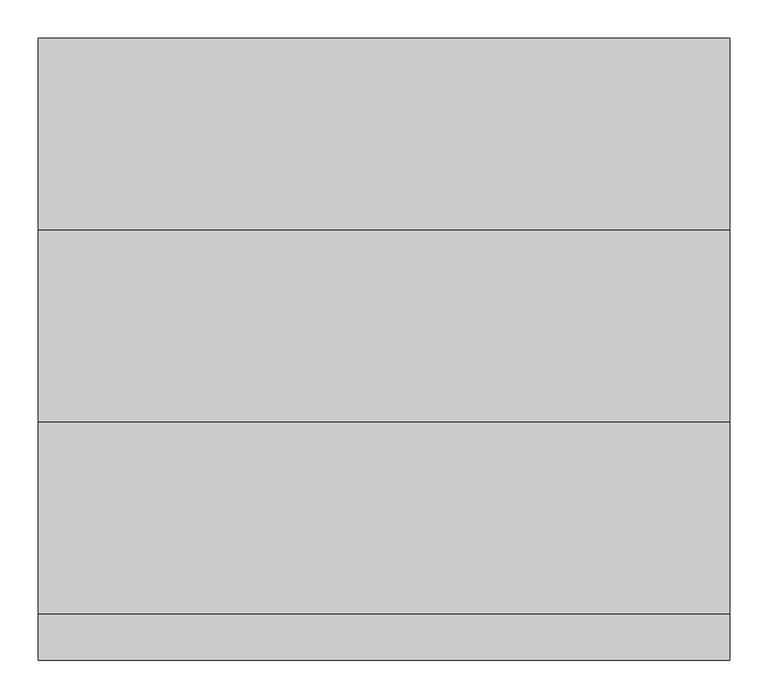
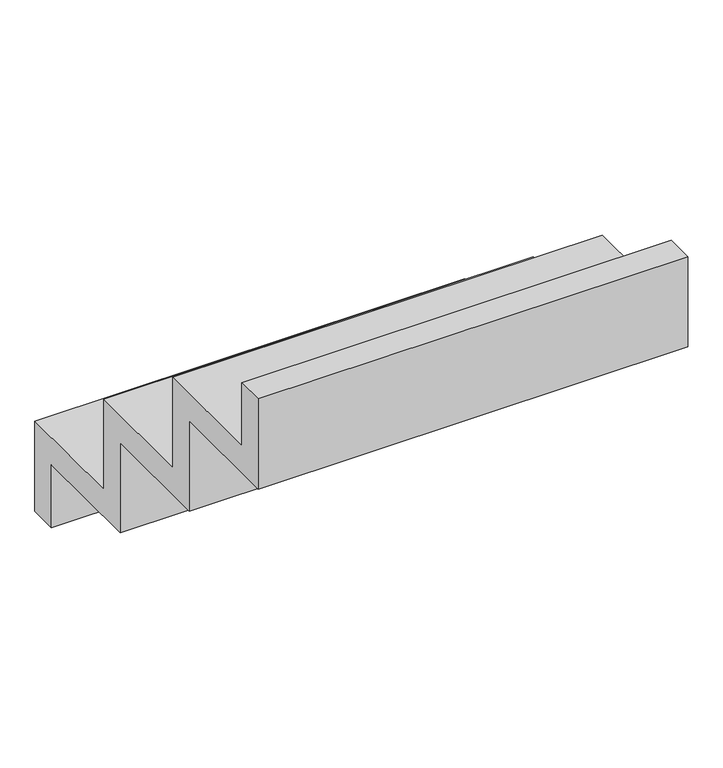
"""IFC4 building model written with IfcOpenShell, lengths in millimetres: stair geometry, Л2 : Л-1."""

from ifc_helpers import new_model, si_unit, frame, origin, place, context, project, spatial, polyline, outline, extrude, source, transform, mapped, element, save


def stair_94473a12(model_context):
    return source(origin(), model_context, "Body", "SweptSolid", [
        extrude(outline(polyline([(22210.0, 600.0), (22460.0, 600.0), (22460.0, 400.0), (22710.0, 400.0), (22710.0, 200.0), (22960.0, 200.0), (22960.0, 0.0), (22900.0, 0.0), (22900.0, 140.0), (22650.0, 140.0), (22650.0, 340.0), (22400.0, 340.0), (22400.0, 540.0), (22150.0, 540.0), (22150.0, 740.0), (22210.0, 740.0), (22210.0, 600.0)])), frame((4605.0, 0.0, 0.0), z_axis=(1.0, 0.0, 0.0), x_axis=(0.0, 1.0, 0.0)), (0.0, 0.0, 1.0), 900.0),
    ])


if __name__ == "__main__":
    model = new_model("IFC4")
    model_context = context("Model", 3, world=origin())
    ifc_project = project(units=[si_unit("LENGTHUNIT", "METRE", prefix="MILLI")], contexts=[model_context])
    site = spatial("IfcSite", under=ifc_project)
    building = spatial("IfcBuilding", under=site)
    placement = place(None, origin())
    stair_shape = stair_94473a12(model_context)
    element("IfcStair", 1, ObjectType="Л2 : Л-1", at=placement, inside=building, context=model_context, shape_type="MappedRepresentation", body=[
        mapped(stair_shape, transform((0.0, 0.0, 0.0), x_axis=(1.0, 0.0, 0.0), y_axis=(0.0, 1.0, 0.0), z_axis=(0.0, 0.0, 1.0))),
    ])
    save(model, "model.ifc")
